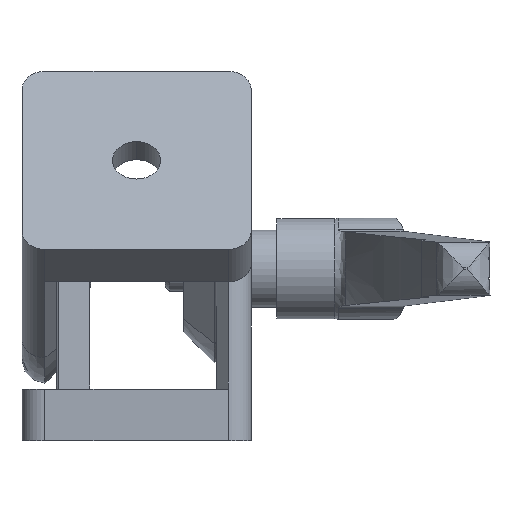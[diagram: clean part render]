
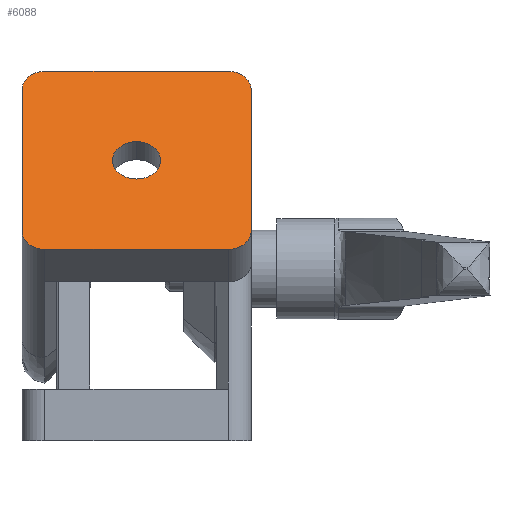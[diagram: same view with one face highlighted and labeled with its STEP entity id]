
A CAD part, left-side view. The second image highlights one B-rep face of the part: STEP entity #6088.
In plain terms, the highlighted planar face has unit normal (-0.776, 0, 0.63) as drawn and (0, 0, 1) by its records, which use the part's own axes.
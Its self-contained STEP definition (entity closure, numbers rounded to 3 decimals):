
#52 = ORIENTED_EDGE ( 'NONE', *, *, #3474, .F. ) ;
#72 = DIRECTION ( 'NONE',  ( 1., 0., 0. ) ) ;
#86 = EDGE_CURVE ( 'NONE', #5259, #3720, #5749, .T. ) ;
#112 = EDGE_CURVE ( 'NONE', #933, #6853, #2421, .T. ) ;
#151 = CARTESIAN_POINT ( 'NONE',  ( -20., -16., 60. ) ) ;
#164 = EDGE_CURVE ( 'NONE', #1617, #6982, #1878, .T. ) ;
#221 = VECTOR ( 'NONE', #6824, 1000. ) ;
#269 = DIRECTION ( 'NONE',  ( 1., 0., 0. ) ) ;
#400 = EDGE_LOOP ( 'NONE', ( #3565, #6949 ) ) ;
#560 = DIRECTION ( 'NONE',  ( 0., 0., 1. ) ) ;
#561 = CIRCLE ( 'NONE', #3140, 4. ) ;
#576 = AXIS2_PLACEMENT_3D ( 'NONE', #4107, #4140, #72 ) ;
#663 = DIRECTION ( 'NONE',  ( -1., 0., 0. ) ) ;
#803 = EDGE_CURVE ( 'NONE', #3707, #1617, #561, .T. ) ;
#865 = CARTESIAN_POINT ( 'NONE',  ( -16., 16., 60. ) ) ;
#922 = VERTEX_POINT ( 'NONE', #2205 ) ;
#933 = VERTEX_POINT ( 'NONE', #5800 ) ;
#1131 = CARTESIAN_POINT ( 'NONE',  ( -16., 20., 60. ) ) ;
#1519 = DIRECTION ( 'NONE',  ( 1., 0., 0. ) ) ;
#1543 = CARTESIAN_POINT ( 'NONE',  ( 20., -16., 60. ) ) ;
#1617 = VERTEX_POINT ( 'NONE', #1131 ) ;
#1721 = VECTOR ( 'NONE', #7531, 1000. ) ;
#1722 = VERTEX_POINT ( 'NONE', #151 ) ;
#1759 = AXIS2_PLACEMENT_3D ( 'NONE', #1942, #3132, #4294 ) ;
#1793 = VECTOR ( 'NONE', #4199, 1000. ) ;
#1878 = LINE ( 'NONE', #3058, #1793 ) ;
#1942 = CARTESIAN_POINT ( 'NONE',  ( -16., -16., 60. ) ) ;
#2172 = DIRECTION ( 'NONE',  ( 0., 0., -1. ) ) ;
#2205 = CARTESIAN_POINT ( 'NONE',  ( 20., 16., 60. ) ) ;
#2250 = VERTEX_POINT ( 'NONE', #4810 ) ;
#2252 = FACE_BOUND ( 'NONE', #400, .T. ) ;
#2393 = EDGE_CURVE ( 'NONE', #2250, #1722, #7536, .T. ) ;
#2421 = CIRCLE ( 'NONE', #6711, 4.2 ) ;
#2431 = DIRECTION ( 'NONE',  ( 1., 0., 0. ) ) ;
#2479 = AXIS2_PLACEMENT_3D ( 'NONE', #2915, #560, #4693 ) ;
#2748 = DIRECTION ( 'NONE',  ( 0., 0., -1. ) ) ;
#2863 = ORIENTED_EDGE ( 'NONE', *, *, #4952, .F. ) ;
#2915 = CARTESIAN_POINT ( 'NONE',  ( 0., 0., 60. ) ) ;
#3035 = ORIENTED_EDGE ( 'NONE', *, *, #164, .F. ) ;
#3058 = CARTESIAN_POINT ( 'NONE',  ( 0., 20., 60. ) ) ;
#3132 = DIRECTION ( 'NONE',  ( 0., 0., -1. ) ) ;
#3140 = AXIS2_PLACEMENT_3D ( 'NONE', #865, #2748, #269 ) ;
#3333 = CARTESIAN_POINT ( 'NONE',  ( 0., 0., 60. ) ) ;
#3456 = LINE ( 'NONE', #4492, #221 ) ;
#3474 = EDGE_CURVE ( 'NONE', #1722, #3707, #6325, .T. ) ;
#3528 = DIRECTION ( 'NONE',  ( 0., 0., 1. ) ) ;
#3558 = LINE ( 'NONE', #4721, #5449 ) ;
#3565 = ORIENTED_EDGE ( 'NONE', *, *, #5922, .F. ) ;
#3567 = EDGE_CURVE ( 'NONE', #922, #5259, #3456, .T. ) ;
#3707 = VERTEX_POINT ( 'NONE', #5310 ) ;
#3720 = VERTEX_POINT ( 'NONE', #5353 ) ;
#4079 = CARTESIAN_POINT ( 'NONE',  ( 4.2, 0., 60. ) ) ;
#4107 = CARTESIAN_POINT ( 'NONE',  ( 16., -16., 60. ) ) ;
#4140 = DIRECTION ( 'NONE',  ( 0., 0., -1. ) ) ;
#4199 = DIRECTION ( 'NONE',  ( 1., 0., 0. ) ) ;
#4294 = DIRECTION ( 'NONE',  ( 1., 0., 0. ) ) ;
#4492 = CARTESIAN_POINT ( 'NONE',  ( 20., 0., 60. ) ) ;
#4693 = DIRECTION ( 'NONE',  ( 1., 0., 0. ) ) ;
#4721 = CARTESIAN_POINT ( 'NONE',  ( 0., -20., 60. ) ) ;
#4810 = CARTESIAN_POINT ( 'NONE',  ( -16., -20., 60. ) ) ;
#4952 = EDGE_CURVE ( 'NONE', #6982, #922, #5676, .T. ) ;
#5156 = CARTESIAN_POINT ( 'NONE',  ( 16., 16., 60. ) ) ;
#5217 = ORIENTED_EDGE ( 'NONE', *, *, #3567, .F. ) ;
#5259 = VERTEX_POINT ( 'NONE', #1543 ) ;
#5310 = CARTESIAN_POINT ( 'NONE',  ( -20., 16., 60. ) ) ;
#5353 = CARTESIAN_POINT ( 'NONE',  ( 16., -20., 60. ) ) ;
#5449 = VECTOR ( 'NONE', #663, 1000. ) ;
#5523 = EDGE_LOOP ( 'NONE', ( #52, #5885, #6101, #7259, #5217, #2863, #3035, #6382 ) ) ;
#5676 = CIRCLE ( 'NONE', #7017, 4. ) ;
#5722 = DIRECTION ( 'NONE',  ( -1., 0., 0. ) ) ;
#5749 = CIRCLE ( 'NONE', #576, 4. ) ;
#5800 = CARTESIAN_POINT ( 'NONE',  ( -4.2, 0., 60. ) ) ;
#5842 = EDGE_CURVE ( 'NONE', #3720, #2250, #3558, .T. ) ;
#5885 = ORIENTED_EDGE ( 'NONE', *, *, #2393, .F. ) ;
#5922 = EDGE_CURVE ( 'NONE', #6853, #933, #6771, .T. ) ;
#6088 = ADVANCED_FACE ( 'NONE', ( #2252, #7482 ), #6239, .F. ) ;
#6101 = ORIENTED_EDGE ( 'NONE', *, *, #5842, .F. ) ;
#6239 = PLANE ( 'NONE',  #7025 ) ;
#6325 = LINE ( 'NONE', #6907, #1721 ) ;
#6382 = ORIENTED_EDGE ( 'NONE', *, *, #803, .F. ) ;
#6711 = AXIS2_PLACEMENT_3D ( 'NONE', #7051, #3528, #2431 ) ;
#6721 = CARTESIAN_POINT ( 'NONE',  ( 16., 20., 60. ) ) ;
#6771 = CIRCLE ( 'NONE', #2479, 4.2 ) ;
#6824 = DIRECTION ( 'NONE',  ( 0., -1., 0. ) ) ;
#6853 = VERTEX_POINT ( 'NONE', #4079 ) ;
#6856 = DIRECTION ( 'NONE',  ( 0., 0., -1. ) ) ;
#6907 = CARTESIAN_POINT ( 'NONE',  ( -20., 0., 60. ) ) ;
#6949 = ORIENTED_EDGE ( 'NONE', *, *, #112, .F. ) ;
#6982 = VERTEX_POINT ( 'NONE', #6721 ) ;
#7017 = AXIS2_PLACEMENT_3D ( 'NONE', #5156, #2172, #1519 ) ;
#7025 = AXIS2_PLACEMENT_3D ( 'NONE', #3333, #6856, #5722 ) ;
#7051 = CARTESIAN_POINT ( 'NONE',  ( 0., 0., 60. ) ) ;
#7259 = ORIENTED_EDGE ( 'NONE', *, *, #86, .F. ) ;
#7482 = FACE_OUTER_BOUND ( 'NONE', #5523, .T. ) ;
#7531 = DIRECTION ( 'NONE',  ( 0., 1., 0. ) ) ;
#7536 = CIRCLE ( 'NONE', #1759, 4. ) ;
